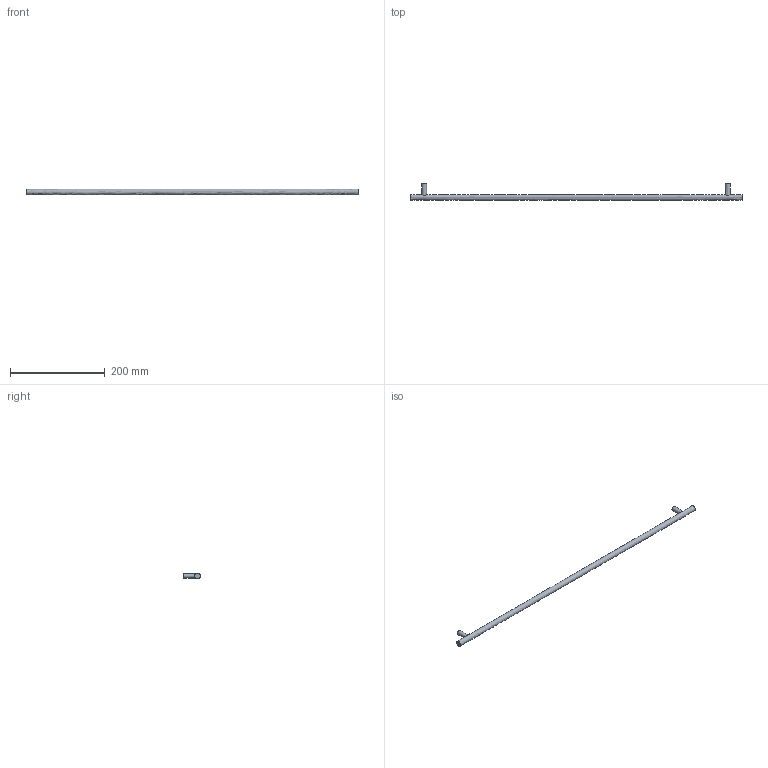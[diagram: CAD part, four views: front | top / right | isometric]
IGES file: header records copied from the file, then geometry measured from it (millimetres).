
Start section: Data from Parasolid IGES Translator 15.0.47, Copyright(c) 2006 Siemens P LM Software. All Rights Reserved.
Global section: file name: 9071030.igs; native system:  By UGS Corp.; preprocessor: XPlus GENERIC/IGES 3.0; author: Noname; organization: Noname; date: 20140122.181337; units: millimetre
Bounding box: 700 x 35 x 12 mm (x, y, z)
Surface area: 28420.9 mm2 (no closed solid volume)
Topology: 0 solids, 0 shells, 11 faces, 30 edges, 22 vertices
Faces by surface type: extrusion 6, revolution 5
